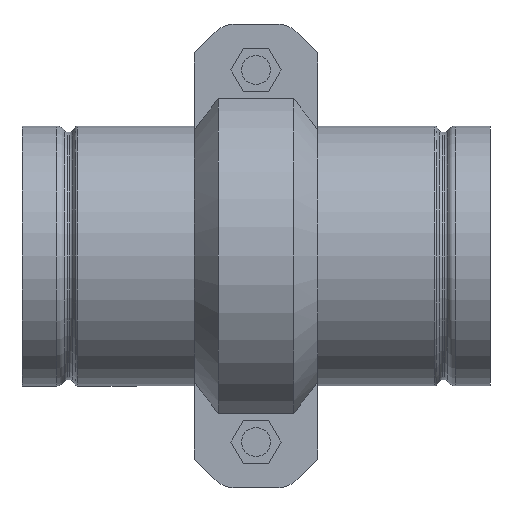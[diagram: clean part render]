
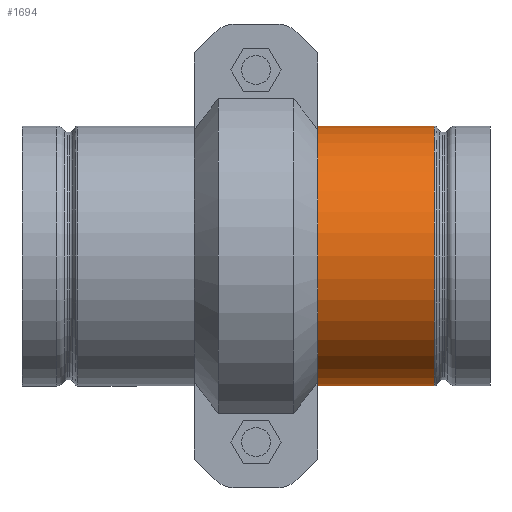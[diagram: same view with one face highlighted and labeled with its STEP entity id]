
A CAD part, front view. The second image highlights one B-rep face of the part: STEP entity #1694.
In plain terms, the highlighted cylindrical face has radius 57.15 mm (diameter 114.3 mm), a full revolution.
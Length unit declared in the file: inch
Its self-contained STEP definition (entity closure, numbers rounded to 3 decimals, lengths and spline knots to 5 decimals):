
#51=LINE('',#2776,#144);
#144=VECTOR('',#2231,2.25);
#237=CYLINDRICAL_SURFACE('',#1917,2.25);
#335=FACE_OUTER_BOUND('',#430,.T.);
#430=EDGE_LOOP('',(#1178,#1179,#1180,#1181,#1182,#1183,#1184,#1185));
#567=CIRCLE('',#1913,2.25);
#568=CIRCLE('',#1914,2.25);
#570=CIRCLE('',#1916,2.25);
#571=CIRCLE('',#1918,2.25);
#572=CIRCLE('',#1919,2.25);
#573=CIRCLE('',#1920,2.25);
#704=VERTEX_POINT('',#2763);
#705=VERTEX_POINT('',#2764);
#706=VERTEX_POINT('',#2766);
#707=VERTEX_POINT('',#2771);
#708=VERTEX_POINT('',#2772);
#709=VERTEX_POINT('',#2774);
#887=EDGE_CURVE('',#704,#705,#567,.T.);
#888=EDGE_CURVE('',#705,#706,#568,.T.);
#890=EDGE_CURVE('',#706,#704,#570,.T.);
#891=EDGE_CURVE('',#707,#708,#571,.T.);
#892=EDGE_CURVE('',#709,#707,#572,.T.);
#893=EDGE_CURVE('',#709,#705,#51,.T.);
#894=EDGE_CURVE('',#708,#709,#573,.T.);
#1178=ORIENTED_EDGE('',*,*,#891,.F.);
#1179=ORIENTED_EDGE('',*,*,#892,.F.);
#1180=ORIENTED_EDGE('',*,*,#893,.T.);
#1181=ORIENTED_EDGE('',*,*,#887,.F.);
#1182=ORIENTED_EDGE('',*,*,#890,.F.);
#1183=ORIENTED_EDGE('',*,*,#888,.F.);
#1184=ORIENTED_EDGE('',*,*,#893,.F.);
#1185=ORIENTED_EDGE('',*,*,#894,.F.);
#1694=ADVANCED_FACE('',(#335),#237,.T.);
#1913=AXIS2_PLACEMENT_3D('',#2765,#2217,#2218);
#1914=AXIS2_PLACEMENT_3D('',#2767,#2219,#2220);
#1916=AXIS2_PLACEMENT_3D('',#2769,#2223,#2224);
#1917=AXIS2_PLACEMENT_3D('',#2770,#2225,#2226);
#1918=AXIS2_PLACEMENT_3D('',#2773,#2227,#2228);
#1919=AXIS2_PLACEMENT_3D('',#2775,#2229,#2230);
#1920=AXIS2_PLACEMENT_3D('',#2777,#2232,#2233);
#2217=DIRECTION('center_axis',(-1.,0.,0.));
#2218=DIRECTION('ref_axis',(0.,-1.,0.));
#2219=DIRECTION('center_axis',(-1.,0.,0.));
#2220=DIRECTION('ref_axis',(0.,-1.,0.));
#2223=DIRECTION('center_axis',(-1.,0.,0.));
#2224=DIRECTION('ref_axis',(0.,-1.,0.));
#2225=DIRECTION('center_axis',(1.,0.,0.));
#2226=DIRECTION('ref_axis',(0.,1.,0.));
#2227=DIRECTION('center_axis',(1.,0.,0.));
#2228=DIRECTION('ref_axis',(0.,-1.,0.));
#2229=DIRECTION('center_axis',(1.,0.,0.));
#2230=DIRECTION('ref_axis',(0.,-1.,0.));
#2231=DIRECTION('',(-1.,0.,0.));
#2232=DIRECTION('center_axis',(1.,0.,0.));
#2233=DIRECTION('ref_axis',(0.,-1.,0.));
#2763=CARTESIAN_POINT('',(0.999,2.25,0.));
#2764=CARTESIAN_POINT('',(0.999,-2.25,0.));
#2765=CARTESIAN_POINT('Origin',(0.999,0.,0.));
#2766=CARTESIAN_POINT('',(0.999,0.,2.25));
#2767=CARTESIAN_POINT('Origin',(0.999,0.,0.));
#2769=CARTESIAN_POINT('Origin',(0.999,0.,0.));
#2770=CARTESIAN_POINT('Origin',(2.01686,0.,0.));
#2771=CARTESIAN_POINT('',(3.03349,2.25,0.));
#2772=CARTESIAN_POINT('',(3.03349,0.,2.25));
#2773=CARTESIAN_POINT('Origin',(3.03349,0.,0.));
#2774=CARTESIAN_POINT('',(3.03349,-2.25,0.));
#2775=CARTESIAN_POINT('Origin',(3.03349,0.,0.));
#2776=CARTESIAN_POINT('',(2.01686,-2.25,0.));
#2777=CARTESIAN_POINT('Origin',(3.03349,0.,0.));
